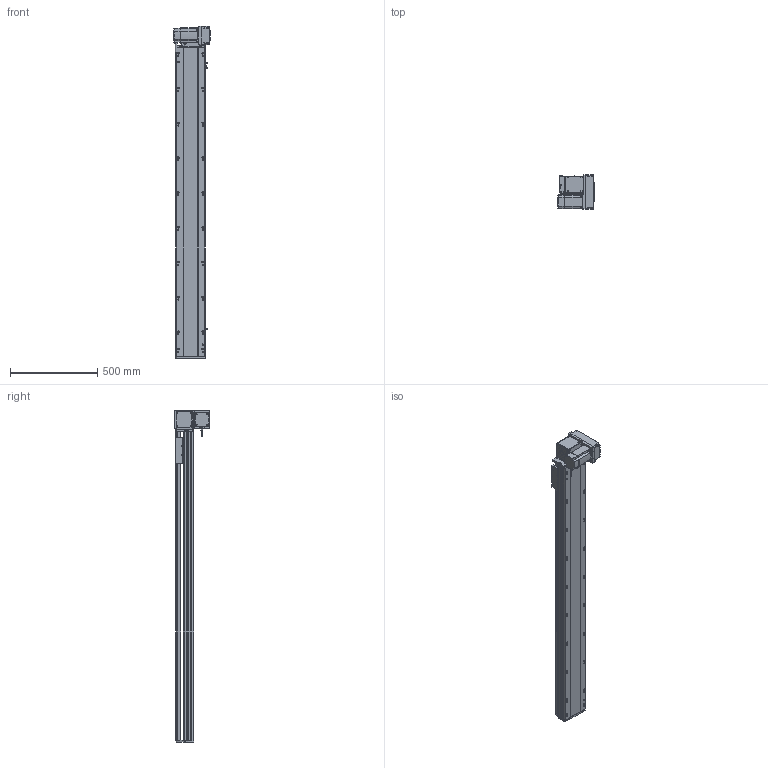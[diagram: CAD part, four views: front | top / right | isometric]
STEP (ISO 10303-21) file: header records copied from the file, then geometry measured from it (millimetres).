
FILE_DESCRIPTION (( 'STEP AP214' ), '1' );
FILE_NAME ('RTB17S-XX-1500-RM-M75-C4.STEP', '2025-12-12T02:09:11', ( '' ), ( '' ), 'SwSTEP 2.0', 'SolidWorks 2018', '' );
FILE_SCHEMA (( 'AUTOMOTIVE_DESIGN' ));
Length unit declared in the file: millimetre
Products named in the file (15): RTB22S-GY-017P^RTB17S-RM-々湍釱蚾饜-750W_RTB17S-XX-XX-RM-M75-C4; EE672^RTB17S-XX-XX-RM-M75-C4; RTB22S-GY-018P^RTB17S-RM-々湍釱蚾饜-750W_RTB17S-XX-XX-RM-M75-C4; 750W萇儂^RTB17S-XX-XX-RM-M75-C4; RTB17-R-011菁釱^RTB17S-XX-XX-RM-M75-C4; RTB17S-XX-1500-RM-M75-C4; RTH13-BL-012覜茼え俋离^RTB17S-賑釱_RTB17S-XX-XX-RM-M75-C4; RTB22S-GY-005P^RTB17S-RM-々湍釱蚾饜-750W_RTB17S-XX-XX-RM-M75-C4; RTB17S-RM-々湍釱蚾饜-750W^RTB17S-XX-XX-RM-M75-C4; RTB17S-L-001-耜醱啣^RTB17S-XX-XX-RM-M75-C4; RTB17S-L-014-T20-P75--々湍釱^RTB17S-RM-々湍釱蚾饜-750W_RTB17S-XX-XX-RM-M75-C4; RTB17S-L-004-賑釱^RTB17S-賑釱_RTB17S-XX-XX-RM-M75-C4; RTB22S-GY-008-M75--萇儂啣^RTB17S-RM-々湍釱蚾饜-750W_RTB17S-XX-XX-RM-M75-C4; RTB17S-L-007奻裔^RTB17S-XX-XX-RM-M75-C4; RTB17S-賑釱^RTB17S-XX-XX-RM-M75-C4
Assembly tree (17 placements, depth 3):
  RTB17S-XX-1500-RM-M75-C4
    RTB17-R-011菁釱^RTB17S-XX-XX-RM-M75-C4
    EE672^RTB17S-XX-XX-RM-M75-C4  x3
    RTB17S-L-001-耜醱啣^RTB17S-XX-XX-RM-M75-C4
    RTB17S-賑釱^RTB17S-XX-XX-RM-M75-C4
      RTB17S-L-004-賑釱^RTB17S-賑釱_RTB17S-XX-XX-RM-M75-C4
      RTH13-BL-012覜茼え俋离^RTB17S-賑釱_RTB17S-XX-XX-RM-M75-C4
    RTB17S-L-007奻裔^RTB17S-XX-XX-RM-M75-C4
    750W萇儂^RTB17S-XX-XX-RM-M75-C4
    RTB17S-RM-々湍釱蚾饜-750W^RTB17S-XX-XX-RM-M75-C4
      RTB17S-L-014-T20-P75--々湍釱^RTB17S-RM-々湍釱蚾饜-750W_RTB17S-XX-XX-RM-M75-C4
      RTB22S-GY-005P^RTB17S-RM-々湍釱蚾饜-750W_RTB17S-XX-XX-RM-M75-C4
      RTB22S-GY-017P^RTB17S-RM-々湍釱蚾饜-750W_RTB17S-XX-XX-RM-M75-C4  x2
      RTB22S-GY-008-M75--萇儂啣^RTB17S-RM-々湍釱蚾饜-750W_RTB17S-XX-XX-RM-M75-C4
      RTB22S-GY-018P^RTB17S-RM-々湍釱蚾饜-750W_RTB17S-XX-XX-RM-M75-C4
Bounding box: 207.4 x 200 x 1907.5 mm (x, y, z)
Volume: 15324097.4 mm3; surface area: 2685983 mm2
Topology: 17 solids, 17 shells, 2137 faces, 5944 edges, 3842 vertices
Faces by surface type: plane 976, cylinder 745, bspline 294, cone 110, sphere 8, torus 4
Entity records: 60406 total; most frequent: CARTESIAN_POINT 17808, ORIENTED_EDGE 8732, DIRECTION 8132, EDGE_CURVE 4366, AXIS2_PLACEMENT_3D 2862, VERTEX_POINT 2846, LINE 2408, VECTOR 2408
